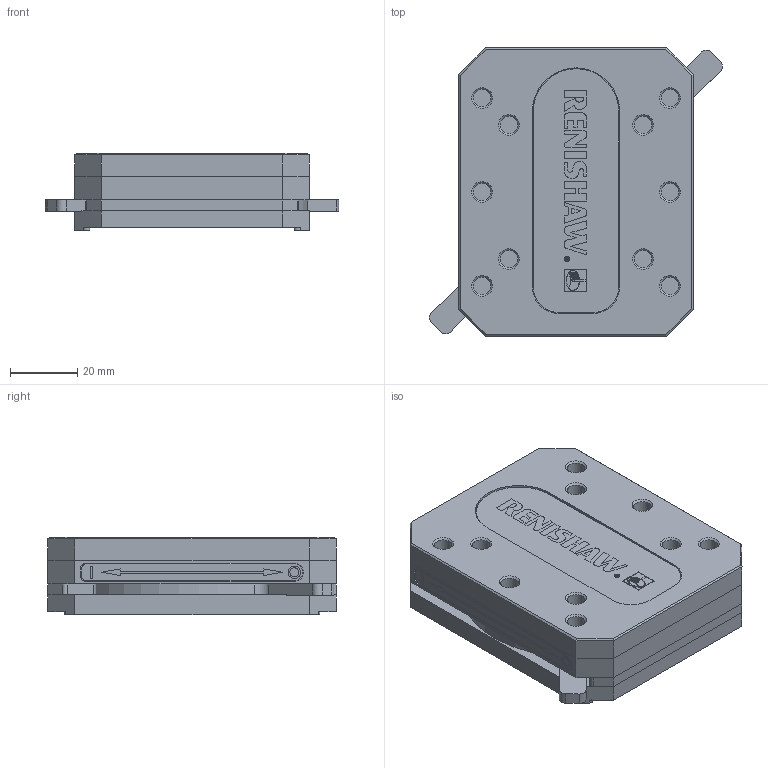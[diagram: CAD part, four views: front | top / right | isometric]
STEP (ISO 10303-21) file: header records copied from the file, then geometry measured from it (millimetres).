
FILE_DESCRIPTION(/* description */ ('CAx-IF Rec.Pracs.---Representation and Presentation of Product Manufacturing Information (PMI)---4.0---2014-10-13','CAx-IF Rec.Pracs.---3D Tessellated Geometry---0.4---2014-09-14','2;1'),/* implementation_level */ '2;1');
FILE_NAME(/* name */ 'A-9971-0020-01-A_LOW PROFILE MAGBASE _altrep_A-9971-0020-01-A-alt1_',/* time_stamp */ '2025-09-02T11:24:44+01:00',/* author */ (''),/* organization */ (''),/* preprocessor_version */ 'ST-DEVELOPER v20',/* originating_system */ 'SIEMENS PLM Software NX2312.8103',/* authorisation */ $);
FILE_SCHEMA (('AP242_MANAGED_MODEL_BASED_3D_ENGINEERING_MIM_LF { 1 0 10303 442 3 1 4 }'));
Length unit declared in the file: millimetre
Products named in the file (1): A-9971-0020-01-A_LOW PROFILE MAGBASE _altrep_A-9971-0020-01-A-alt1_
Bounding box: 87.39 x 86 x 23.25 mm (x, y, z)
Volume: 127529.8 mm3; surface area: 22966.8 mm2
Topology: 1 solids, 7 shells, 249 faces, 690 edges, 494 vertices
Faces by surface type: plane 164, cylinder 59, cone 26
Full cylindrical faces by diameter (mm): 2.6 x2, 3.7 x2, 5.2 x10
Entity records: 9940 total; most frequent: CARTESIAN_POINT 1812, ORIENTED_EDGE 1276, DIRECTION 1240, EDGE_CURVE 638, VERTEX_POINT 488, LINE 420, VECTOR 420, AXIS2_PLACEMENT_3D 410
